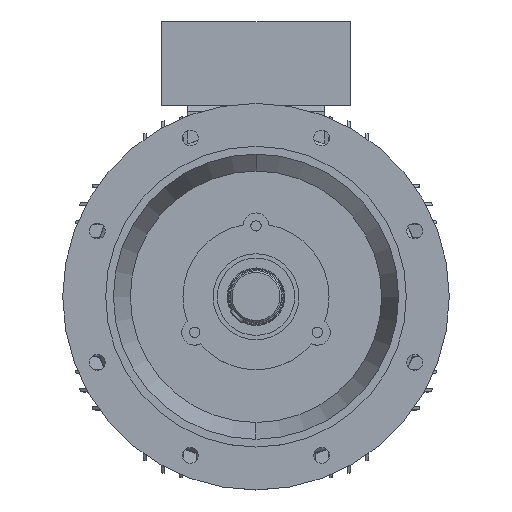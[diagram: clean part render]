
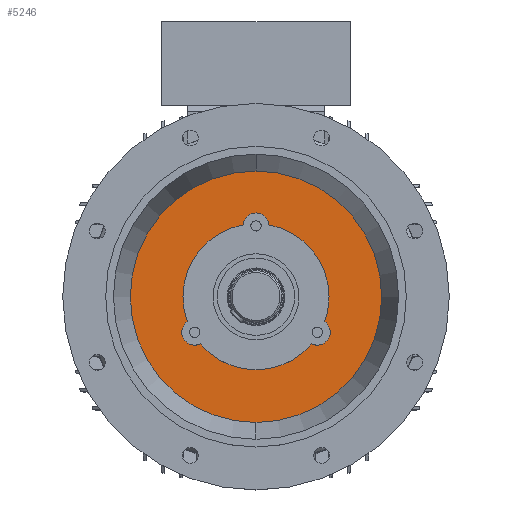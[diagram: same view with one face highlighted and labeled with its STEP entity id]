
A CAD part, top view. The second image highlights one B-rep face of the part: STEP entity #5246.
In plain terms, the highlighted planar face has unit normal (0, 0, 1) as drawn and (-1, 0, 0) by its records, which use the part's own axes.
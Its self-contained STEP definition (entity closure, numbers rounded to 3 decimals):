
#5246 = ADVANCED_FACE ( 'NONE', ( #16036, #16037 ), #18129, .F. ) ;
#7310 = EDGE_CURVE ( 'NONE', #15618, #15615, #16150, .T. ) ;
#7334 = EDGE_CURVE ( 'NONE', #15753, #14708, #16172, .T. ) ;
#7335 = EDGE_CURVE ( 'NONE', #14751, #16913, #16169, .T. ) ;
#7337 = EDGE_CURVE ( 'NONE', #15702, #14751, #16176, .T. ) ;
#7338 = EDGE_CURVE ( 'NONE', #15759, #15713, #16175, .T. ) ;
#7340 = EDGE_CURVE ( 'NONE', #14752, #15759, #16180, .T. ) ;
#7342 = EDGE_CURVE ( 'NONE', #14708, #14752, #16183, .T. ) ;
#7970 = EDGE_CURVE ( 'NONE', #16913, #15753, #20817, .T. ) ;
#8010 = EDGE_CURVE ( 'NONE', #15713, #15702, #20869, .T. ) ;
#10919 = EDGE_LOOP ( 'NONE', ( #14989, #14999 ) ) ;
#10934 = EDGE_LOOP ( 'NONE', ( #14974, #14971, #14640, #14648, #14630, #14641, #14652, #14650 ) ) ;
#14630 = ORIENTED_EDGE ( 'NONE', *, *, #7340, .F. ) ;
#14640 = ORIENTED_EDGE ( 'NONE', *, *, #8010, .F. ) ;
#14641 = ORIENTED_EDGE ( 'NONE', *, *, #7342, .F. ) ;
#14648 = ORIENTED_EDGE ( 'NONE', *, *, #7338, .F. ) ;
#14650 = ORIENTED_EDGE ( 'NONE', *, *, #7970, .F. ) ;
#14652 = ORIENTED_EDGE ( 'NONE', *, *, #7334, .F. ) ;
#14708 = VERTEX_POINT ( 'NONE', #29469 ) ;
#14751 = VERTEX_POINT ( 'NONE', #29490 ) ;
#14752 = VERTEX_POINT ( 'NONE', #29492 ) ;
#14971 = ORIENTED_EDGE ( 'NONE', *, *, #7337, .F. ) ;
#14974 = ORIENTED_EDGE ( 'NONE', *, *, #7335, .F. ) ;
#14989 = ORIENTED_EDGE ( 'NONE', *, *, #7310, .T. ) ;
#14999 = ORIENTED_EDGE ( 'NONE', *, *, #26998, .T. ) ;
#15615 = VERTEX_POINT ( 'NONE', #29642 ) ;
#15618 = VERTEX_POINT ( 'NONE', #29647 ) ;
#15702 = VERTEX_POINT ( 'NONE', #29690 ) ;
#15713 = VERTEX_POINT ( 'NONE', #29707 ) ;
#15753 = VERTEX_POINT ( 'NONE', #29732 ) ;
#15759 = VERTEX_POINT ( 'NONE', #29736 ) ;
#16036 = FACE_OUTER_BOUND ( 'NONE', #10919, .T. ) ;
#16037 = FACE_BOUND ( 'NONE', #10934, .T. ) ;
#16150 = CIRCLE ( 'NONE', #17493, 146.346 ) ;
#16169 = CIRCLE ( 'NONE', #17499, 15. ) ;
#16172 = CIRCLE ( 'NONE', #17498, 85. ) ;
#16175 = CIRCLE ( 'NONE', #17501, 15. ) ;
#16176 = CIRCLE ( 'NONE', #17500, 85. ) ;
#16180 = CIRCLE ( 'NONE', #17502, 85. ) ;
#16183 = CIRCLE ( 'NONE', #17503, 15. ) ;
#16913 = VERTEX_POINT ( 'NONE', #29831 ) ;
#17443 = AXIS2_PLACEMENT_3D ( 'NONE', #18127, #18126, #18131 ) ;
#17493 = AXIS2_PLACEMENT_3D ( 'NONE', #18454, #18455, #18456 ) ;
#17498 = AXIS2_PLACEMENT_3D ( 'NONE', #18537, #18538, #18539 ) ;
#17499 = AXIS2_PLACEMENT_3D ( 'NONE', #18541, #18542, #18543 ) ;
#17500 = AXIS2_PLACEMENT_3D ( 'NONE', #18545, #18546, #18547 ) ;
#17501 = AXIS2_PLACEMENT_3D ( 'NONE', #18549, #18550, #18551 ) ;
#17502 = AXIS2_PLACEMENT_3D ( 'NONE', #18554, #18555, #18556 ) ;
#17503 = AXIS2_PLACEMENT_3D ( 'NONE', #18560, #18561, #18562 ) ;
#17655 = AXIS2_PLACEMENT_3D ( 'NONE', #20534, #20535, #20536 ) ;
#17681 = AXIS2_PLACEMENT_3D ( 'NONE', #20644, #20645, #20646 ) ;
#18126 = DIRECTION ( 'NONE',  ( 1., 0., 0. ) ) ;
#18127 = CARTESIAN_POINT ( 'NONE',  ( 54., 146.346, 0. ) ) ;
#18129 = PLANE ( 'NONE',  #17443 ) ;
#18131 = DIRECTION ( 'NONE',  ( 0., 0., -1. ) ) ;
#18454 = CARTESIAN_POINT ( 'NONE',  ( 54., 0., 0. ) ) ;
#18455 = DIRECTION ( 'NONE',  ( -1., 0., 0. ) ) ;
#18456 = DIRECTION ( 'NONE',  ( 0., -1., 0. ) ) ;
#18537 = CARTESIAN_POINT ( 'NONE',  ( 54., 0., 0. ) ) ;
#18538 = DIRECTION ( 'NONE',  ( -1., 0., 0. ) ) ;
#18539 = DIRECTION ( 'NONE',  ( 0., 0., 1. ) ) ;
#18541 = CARTESIAN_POINT ( 'NONE',  ( 54., -41.25, 71.447 ) ) ;
#18542 = DIRECTION ( 'NONE',  ( -1., 0., 0. ) ) ;
#18543 = DIRECTION ( 'NONE',  ( 0., 0., -1. ) ) ;
#18545 = CARTESIAN_POINT ( 'NONE',  ( 54., 0., 0. ) ) ;
#18546 = DIRECTION ( 'NONE',  ( -1., 0., 0. ) ) ;
#18547 = DIRECTION ( 'NONE',  ( 0., 0., 1. ) ) ;
#18549 = CARTESIAN_POINT ( 'NONE',  ( 54., -41.25, -71.447 ) ) ;
#18550 = DIRECTION ( 'NONE',  ( -1., 0., 0. ) ) ;
#18551 = DIRECTION ( 'NONE',  ( 0., 0., -1. ) ) ;
#18554 = CARTESIAN_POINT ( 'NONE',  ( 54., 0., 0. ) ) ;
#18555 = DIRECTION ( 'NONE',  ( -1., 0., 0. ) ) ;
#18556 = DIRECTION ( 'NONE',  ( 0., 0., 1. ) ) ;
#18560 = CARTESIAN_POINT ( 'NONE',  ( 54., 82.5, 0. ) ) ;
#18561 = DIRECTION ( 'NONE',  ( -1., 0., 0. ) ) ;
#18562 = DIRECTION ( 'NONE',  ( 0., 0., -1. ) ) ;
#20534 = CARTESIAN_POINT ( 'NONE',  ( 54., 0., 0. ) ) ;
#20535 = DIRECTION ( 'NONE',  ( -1., 0., 0. ) ) ;
#20536 = DIRECTION ( 'NONE',  ( 0., 0., 1. ) ) ;
#20644 = CARTESIAN_POINT ( 'NONE',  ( 54., -41.25, -71.447 ) ) ;
#20645 = DIRECTION ( 'NONE',  ( -1., 0., 0. ) ) ;
#20646 = DIRECTION ( 'NONE',  ( 0., 0., -1. ) ) ;
#20817 = CIRCLE ( 'NONE', #17655, 85. ) ;
#20869 = CIRCLE ( 'NONE', #17681, 15. ) ;
#26998 = EDGE_CURVE ( 'NONE', #15615, #15618, #27769, .T. ) ;
#27769 = CIRCLE ( 'NONE', #28699, 146.346 ) ;
#28699 = AXIS2_PLACEMENT_3D ( 'NONE', #30140, #30141, #30142 ) ;
#29469 = CARTESIAN_POINT ( 'NONE',  ( 54., 83.674, 14.954 ) ) ;
#29490 = CARTESIAN_POINT ( 'NONE',  ( 54., -54.788, 64.987 ) ) ;
#29492 = CARTESIAN_POINT ( 'NONE',  ( 54., 83.674, -14.954 ) ) ;
#29642 = CARTESIAN_POINT ( 'NONE',  ( 54., 146.346, 0. ) ) ;
#29647 = CARTESIAN_POINT ( 'NONE',  ( 54., -146.346, 0. ) ) ;
#29690 = CARTESIAN_POINT ( 'NONE',  ( 54., -54.788, -64.987 ) ) ;
#29707 = CARTESIAN_POINT ( 'NONE',  ( 54., -41.25, -86.447 ) ) ;
#29732 = CARTESIAN_POINT ( 'NONE',  ( 54., 0., 85. ) ) ;
#29736 = CARTESIAN_POINT ( 'NONE',  ( 54., -28.887, -79.941 ) ) ;
#29831 = CARTESIAN_POINT ( 'NONE',  ( 54., -28.887, 79.941 ) ) ;
#30140 = CARTESIAN_POINT ( 'NONE',  ( 54., 0., 0. ) ) ;
#30141 = DIRECTION ( 'NONE',  ( -1., 0., 0. ) ) ;
#30142 = DIRECTION ( 'NONE',  ( 0., -1., 0. ) ) ;
